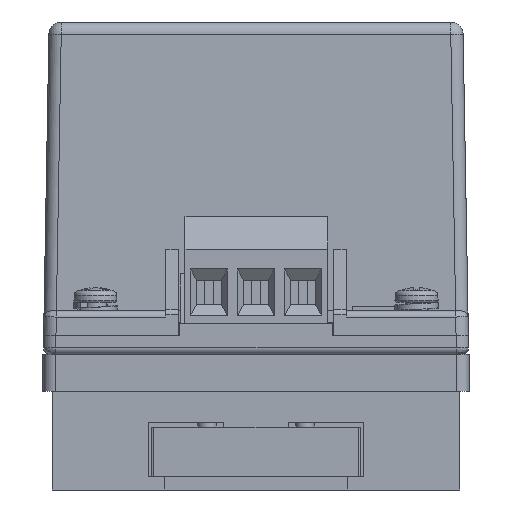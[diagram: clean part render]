
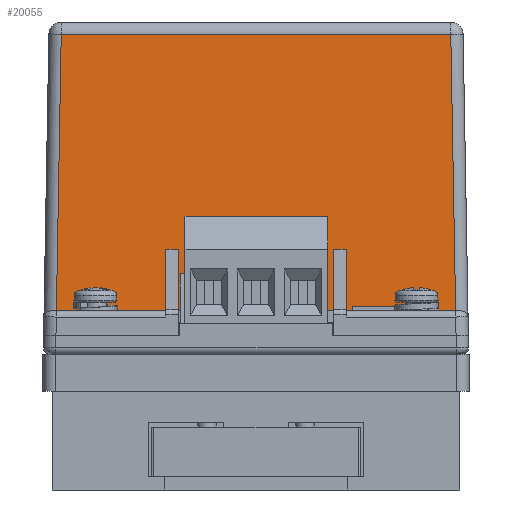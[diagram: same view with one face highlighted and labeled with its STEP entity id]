
A CAD part, left-side view. The second image highlights one B-rep face of the part: STEP entity #20055.
In plain terms, the highlighted planar face has unit normal (-1, 0, 0.018) as drawn and (-1, 0, -0.017) by its records, which use the part's own axes.
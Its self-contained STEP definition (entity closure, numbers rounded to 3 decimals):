
#1218=PLANE($,#21320);
#1875=LINE($,#29335,#3887);
#2143=LINE($,#30620,#4155);
#2156=LINE($,#30650,#4168);
#2165=LINE($,#30667,#4177);
#2630=LINE($,#32717,#4642);
#2635=LINE($,#32756,#4647);
#2637=LINE($,#32770,#4649);
#2647=LINE($,#32787,#4659);
#2648=LINE($,#32789,#4660);
#2649=LINE($,#32790,#4661);
#2650=LINE($,#32792,#4662);
#2651=LINE($,#32793,#4663);
#3887=VECTOR($,#22935,8.865);
#4155=VECTOR($,#23455,5.001);
#4168=VECTOR($,#23478,5.001);
#4177=VECTOR($,#23493,12.6);
#4642=VECTOR($,#24490,22.424);
#4647=VECTOR($,#24521,22.424);
#4649=VECTOR($,#24525,31.548);
#4659=VECTOR($,#24543,8.865);
#4660=VECTOR($,#24544,5.001);
#4661=VECTOR($,#24545,1.);
#4662=VECTOR($,#24546,5.001);
#4663=VECTOR($,#24547,1.);
#6468=FACE_OUTER_BOUND($,#7656,.T.);
#7656=EDGE_LOOP($,(#16399,#16400,#16401,#16402,#16403,#16404,#16405,#16406,
#16407,#16408,#16409,#16410));
#9107=VERTEX_POINT($,#29332);
#9108=VERTEX_POINT($,#29334);
#9391=VERTEX_POINT($,#30619);
#9402=VERTEX_POINT($,#30647);
#9403=VERTEX_POINT($,#30649);
#9408=VERTEX_POINT($,#30665);
#9816=VERTEX_POINT($,#32698);
#9828=VERTEX_POINT($,#32749);
#9830=VERTEX_POINT($,#32754);
#9834=VERTEX_POINT($,#32786);
#9835=VERTEX_POINT($,#32788);
#9836=VERTEX_POINT($,#32791);
#11141=EDGE_CURVE($,#9107,#9108,#1875,.T.);
#11534=EDGE_CURVE($,#9391,#9108,#2143,.T.);
#11549=EDGE_CURVE($,#9403,#9402,#2156,.T.);
#11558=EDGE_CURVE($,#9408,#9402,#2165,.T.);
#12201=EDGE_CURVE($,#9816,#9107,#2630,.T.);
#12215=EDGE_CURVE($,#9830,#9828,#2635,.T.);
#12218=EDGE_CURVE($,#9828,#9816,#2637,.T.);
#12228=EDGE_CURVE($,#9834,#9830,#2647,.T.);
#12229=EDGE_CURVE($,#9834,#9835,#2648,.T.);
#12230=EDGE_CURVE($,#9835,#9403,#2649,.T.);
#12231=EDGE_CURVE($,#9408,#9836,#2650,.T.);
#12232=EDGE_CURVE($,#9836,#9391,#2651,.T.);
#16399=ORIENTED_EDGE($,*,*,#12201,.F.);
#16400=ORIENTED_EDGE($,*,*,#12218,.F.);
#16401=ORIENTED_EDGE($,*,*,#12215,.F.);
#16402=ORIENTED_EDGE($,*,*,#12228,.F.);
#16403=ORIENTED_EDGE($,*,*,#12229,.T.);
#16404=ORIENTED_EDGE($,*,*,#12230,.T.);
#16405=ORIENTED_EDGE($,*,*,#11549,.T.);
#16406=ORIENTED_EDGE($,*,*,#11558,.F.);
#16407=ORIENTED_EDGE($,*,*,#12231,.T.);
#16408=ORIENTED_EDGE($,*,*,#12232,.T.);
#16409=ORIENTED_EDGE($,*,*,#11534,.T.);
#16410=ORIENTED_EDGE($,*,*,#11141,.F.);
#20055=ADVANCED_FACE($,(#6468),#1218,.T.);
#21320=AXIS2_PLACEMENT_3D($,#32785,#24541,#24542);
#22935=DIRECTION($,(0.,-1.,0.));
#23455=DIRECTION($,(-0.017,0.,1.));
#23478=DIRECTION($,(-0.017,0.,1.));
#23493=DIRECTION($,(0.,-1.,0.));
#24490=DIRECTION($,(-0.017,0.017,1.));
#24521=DIRECTION($,(0.017,0.017,-1.));
#24525=DIRECTION($,(0.,1.,0.));
#24541=DIRECTION('center_axis',(-1.,0.,-0.017));
#24542=DIRECTION('ref_axis',(-0.017,0.,1.));
#24543=DIRECTION($,(0.,-1.,0.));
#24544=DIRECTION($,(0.017,0.,-1.));
#24545=DIRECTION($,(0.,1.,0.));
#24546=DIRECTION($,(0.017,0.,-1.));
#24547=DIRECTION($,(0.,1.,0.));
#29332=CARTESIAN_POINT('',(-16.85,16.165,0.));
#29334=CARTESIAN_POINT('',(-16.85,7.3,0.));
#29335=CARTESIAN_POINT($,(-16.85,8.6,0.));
#30619=CARTESIAN_POINT('',(-16.763,7.3,-5.));
#30620=CARTESIAN_POINT($,(-16.83,7.3,-1.147));
#30647=CARTESIAN_POINT('',(-16.85,-6.3,0.));
#30649=CARTESIAN_POINT('',(-16.763,-6.3,-5.));
#30650=CARTESIAN_POINT($,(-16.83,-6.3,-1.147));
#30665=CARTESIAN_POINT('',(-16.85,6.3,0.));
#30667=CARTESIAN_POINT($,(-16.85,8.6,0.));
#32698=CARTESIAN_POINT('',(-16.459,15.774,-22.417));
#32717=CARTESIAN_POINT($,(-16.852,16.167,0.104));
#32749=CARTESIAN_POINT('',(-16.459,-15.774,-22.417));
#32754=CARTESIAN_POINT('',(-16.85,-16.165,0.));
#32756=CARTESIAN_POINT($,(-16.838,-16.154,-0.662));
#32770=CARTESIAN_POINT($,(-16.459,8.6,-22.417));
#32785=CARTESIAN_POINT('Origin',(-16.85,17.2,0.));
#32786=CARTESIAN_POINT('',(-16.85,-7.3,0.));
#32787=CARTESIAN_POINT($,(-16.85,8.6,0.));
#32788=CARTESIAN_POINT('',(-16.763,-7.3,-5.));
#32789=CARTESIAN_POINT($,(-16.83,-7.3,-1.147));
#32790=CARTESIAN_POINT($,(-16.763,5.2,-5.));
#32791=CARTESIAN_POINT('',(-16.763,6.3,-5.));
#32792=CARTESIAN_POINT($,(-16.83,6.3,-1.147));
#32793=CARTESIAN_POINT($,(-16.763,12.,-5.));
